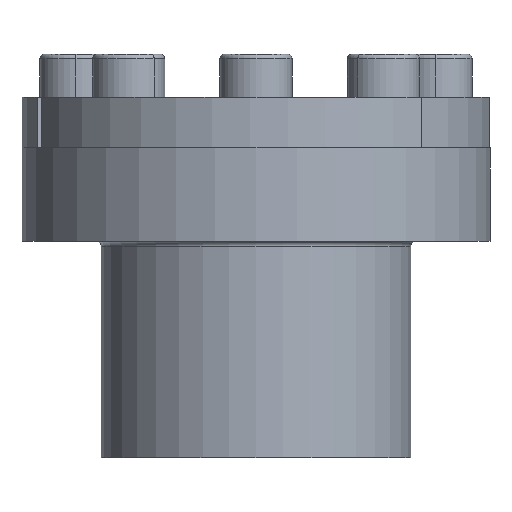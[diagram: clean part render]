
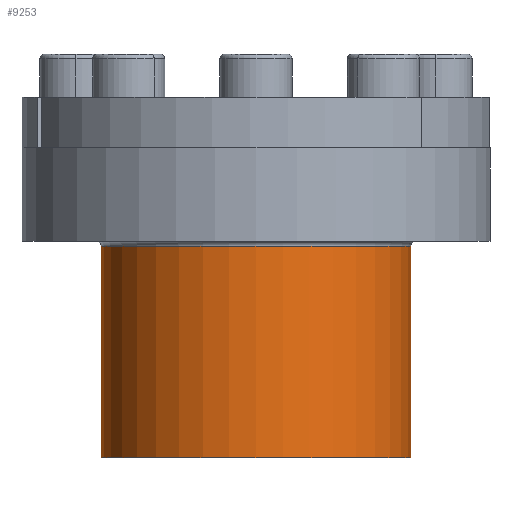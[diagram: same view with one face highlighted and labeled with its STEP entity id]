
A CAD part, front view. The second image highlights one B-rep face of the part: STEP entity #9253.
In plain terms, the highlighted cylindrical face has radius 21.5 mm (diameter 43 mm), a partial arc.
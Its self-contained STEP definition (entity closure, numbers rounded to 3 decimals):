
#145 = ORIENTED_EDGE ( 'NONE', *, *, #13701, .F. ) ;
#1033 = VERTEX_POINT ( 'NONE', #4697 ) ;
#1101 = EDGE_CURVE ( 'NONE', #11970, #4509, #13039, .T. ) ;
#1689 = VECTOR ( 'NONE', #13254, 1000. ) ;
#1810 = CARTESIAN_POINT ( 'NONE',  ( 0., 0., -8. ) ) ;
#2401 = CARTESIAN_POINT ( 'NONE',  ( -21.5, 0., -38. ) ) ;
#2655 = CARTESIAN_POINT ( 'NONE',  ( -21.5, 0., -8. ) ) ;
#2692 = AXIS2_PLACEMENT_3D ( 'NONE', #5385, #12853, #6461 ) ;
#2850 = ORIENTED_EDGE ( 'NONE', *, *, #5272, .T. ) ;
#2926 = DIRECTION ( 'NONE',  ( -1., 0., 0. ) ) ;
#3938 = DIRECTION ( 'NONE',  ( 0., 0., -1. ) ) ;
#4394 = CARTESIAN_POINT ( 'NONE',  ( -21.5, 0., -8.6 ) ) ;
#4509 = VERTEX_POINT ( 'NONE', #2401 ) ;
#4697 = CARTESIAN_POINT ( 'NONE',  ( 21.5, 0., -38. ) ) ;
#4740 = ORIENTED_EDGE ( 'NONE', *, *, #1101, .T. ) ;
#4817 = EDGE_CURVE ( 'NONE', #11893, #1033, #13103, .T. ) ;
#5272 = EDGE_CURVE ( 'NONE', #11893, #11970, #11236, .T. ) ;
#5385 = CARTESIAN_POINT ( 'NONE',  ( 0., 0., -38. ) ) ;
#6135 = DIRECTION ( 'NONE',  ( 0., 0., -1. ) ) ;
#6461 = DIRECTION ( 'NONE',  ( -1., 0., 0. ) ) ;
#7251 = DIRECTION ( 'NONE',  ( 0., 0., -1. ) ) ;
#8607 = CARTESIAN_POINT ( 'NONE',  ( 21.5, 0., -8.6 ) ) ;
#9253 = ADVANCED_FACE ( 'NONE', ( #12501 ), #11182, .T. ) ;
#9291 = CARTESIAN_POINT ( 'NONE',  ( 21.5, 0., -8. ) ) ;
#9554 = AXIS2_PLACEMENT_3D ( 'NONE', #12512, #6135, #13609 ) ;
#9612 = ORIENTED_EDGE ( 'NONE', *, *, #4817, .F. ) ;
#9804 = EDGE_LOOP ( 'NONE', ( #9612, #2850, #4740, #145 ) ) ;
#10260 = VECTOR ( 'NONE', #7251, 1000. ) ;
#10717 = CIRCLE ( 'NONE', #2692, 21.5 ) ;
#11182 = CYLINDRICAL_SURFACE ( 'NONE', #12537, 21.5 ) ;
#11236 = CIRCLE ( 'NONE', #9554, 21.5 ) ;
#11893 = VERTEX_POINT ( 'NONE', #8607 ) ;
#11970 = VERTEX_POINT ( 'NONE', #4394 ) ;
#12501 = FACE_OUTER_BOUND ( 'NONE', #9804, .T. ) ;
#12512 = CARTESIAN_POINT ( 'NONE',  ( 0., 0., -8.6 ) ) ;
#12537 = AXIS2_PLACEMENT_3D ( 'NONE', #1810, #3938, #2926 ) ;
#12853 = DIRECTION ( 'NONE',  ( 0., 0., -1. ) ) ;
#13039 = LINE ( 'NONE', #2655, #1689 ) ;
#13103 = LINE ( 'NONE', #9291, #10260 ) ;
#13254 = DIRECTION ( 'NONE',  ( 0., 0., -1. ) ) ;
#13609 = DIRECTION ( 'NONE',  ( -1., 0., 0. ) ) ;
#13701 = EDGE_CURVE ( 'NONE', #1033, #4509, #10717, .T. ) ;
